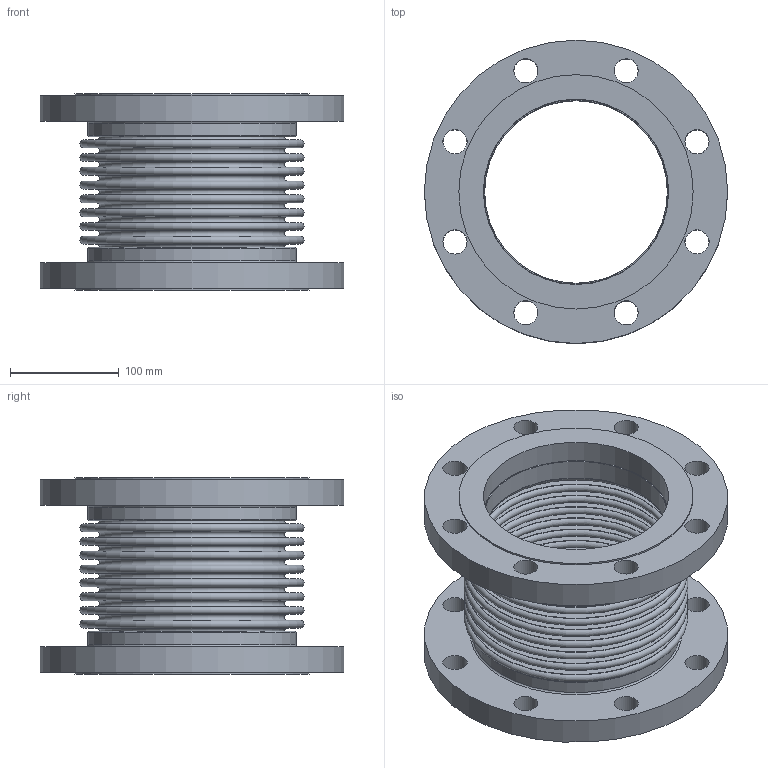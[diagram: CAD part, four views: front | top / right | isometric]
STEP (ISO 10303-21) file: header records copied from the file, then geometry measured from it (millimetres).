
FILE_DESCRIPTION(/* description */ ('EXPANSION JOINT,SINGLE, FLANGED ENDS,6 INCH NOMINAL','CAx-IF Rec.Pracs.---Representation and Presentation of Product Manufacturing Information (PMI)---4.0---2014-10-13'),/* implementation_level */ '2;1');
FILE_NAME(/* name */ 'US-06-8-150S-FLANGED ENDS.stp',/* time_stamp */ '2026-07-31T17:07:07-05:00',/* author */ ('Guadalupe'),/* organization */ (''),/* preprocessor_version */ 'ST-DEVELOPER v20.1',/* originating_system */ 'Autodesk Inventor 2026',/* authorisation */ '');
FILE_SCHEMA (('AP242_MANAGED_MODEL_BASED_3D_ENGINEERING_MIM_LF { 1 0 10303 442 2 1 4 }'));
Length unit declared in the file: inch
Products named in the file (3): 06-150S; 06-150S-02; 06-150S-01
Assembly tree (3 placements, depth 2):
  06-150S
    06-150S-02  x2
    06-150S-01
Bounding box: 279.4 x 279.4 x 180.85 mm (x, y, z)
Volume: 2107509.7 mm3; surface area: 723242.3 mm2
Topology: 5 solids, 5 shells, 112 faces, 198 edges, 132 vertices
Faces by surface type: plane 46, torus 38, cylinder 28
Full cylindrical faces by diameter (mm): 22.225 x16, 168.275 x2, 170.104 x2, 170.688 x2, 192.024 x2, 215.9 x2, 279.4 x2
Entity records: 2558 total; most frequent: DIRECTION 522, CARTESIAN_POINT 377, ORIENTED_EDGE 312, AXIS2_PLACEMENT_3D 253, EDGE_CURVE 156, EDGE_LOOP 152, CIRCLE 140, VERTEX_POINT 104
